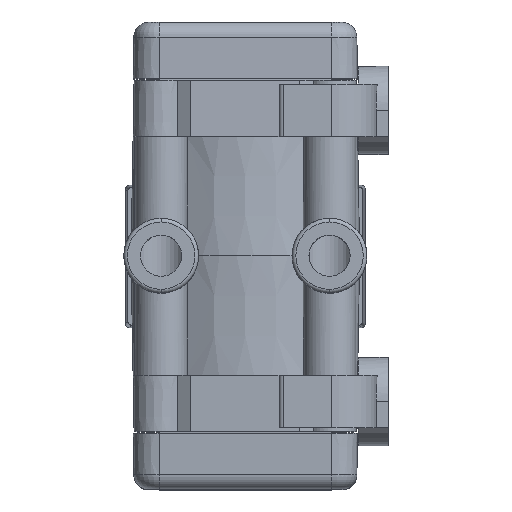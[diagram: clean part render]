
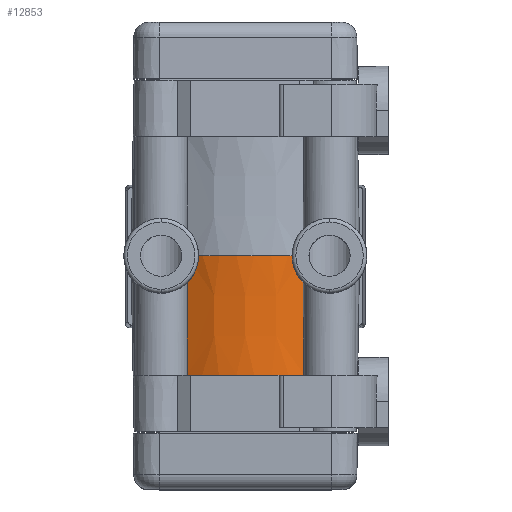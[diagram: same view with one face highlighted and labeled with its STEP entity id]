
A CAD part, top view. The second image highlights one B-rep face of the part: STEP entity #12853.
In plain terms, the highlighted conical face has half-angle 1 degrees and reference radius 15 mm.
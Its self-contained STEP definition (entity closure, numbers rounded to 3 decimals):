
#158 = CARTESIAN_POINT ( 'NONE',  ( -7.819, -5.786, 56.509 ) ) ;
#607 = CARTESIAN_POINT ( 'NONE',  ( -7.897, -15.95, 56.253 ) ) ;
#684 = B_SPLINE_CURVE_WITH_KNOTS ( 'NONE', 3,
 ( #6237, #4446, #21850, #18476, #7996, #20190, #9757 ),
 .UNSPECIFIED., .F., .F.,
 ( 4, 3, 4 ),
 ( 0., 0.007, 0.016 ),
 .UNSPECIFIED. ) ;
#1941 = CARTESIAN_POINT ( 'NONE',  ( -7.778, 0., 56.65 ) ) ;
#2001 = CIRCLE ( 'NONE', #21762, 15. ) ;
#2071 = EDGE_CURVE ( 'NONE', #20459, #7615, #684, .T. ) ;
#3236 = ORIENTED_EDGE ( 'NONE', *, *, #6248, .T. ) ;
#3496 = CARTESIAN_POINT ( 'NONE',  ( 7.778, 0., 56.65 ) ) ;
#4446 = CARTESIAN_POINT ( 'NONE',  ( 7.878, -13.527, 56.315 ) ) ;
#4624 = AXIS2_PLACEMENT_3D ( 'NONE', #6282, #9806, #6195 ) ;
#6099 = CARTESIAN_POINT ( 'NONE',  ( 0., -15.95, 43.5 ) ) ;
#6195 = DIRECTION ( 'NONE',  ( 1., 0., 0. ) ) ;
#6237 = CARTESIAN_POINT ( 'NONE',  ( 7.897, -15.95, 56.253 ) ) ;
#6248 = EDGE_CURVE ( 'NONE', #15462, #20459, #2001, .T. ) ;
#6282 = CARTESIAN_POINT ( 'NONE',  ( 0., -15.95, 43.5 ) ) ;
#7109 = CARTESIAN_POINT ( 'NONE',  ( -7.897, -15.95, 56.253 ) ) ;
#7170 = EDGE_LOOP ( 'NONE', ( #19062, #3236, #11707, #16756 ) ) ;
#7321 = VERTEX_POINT ( 'NONE', #16452 ) ;
#7506 = DIRECTION ( 'NONE',  ( 0., 1., 0. ) ) ;
#7615 = VERTEX_POINT ( 'NONE', #3496 ) ;
#7857 = DIRECTION ( 'NONE',  ( 1., 0., 0. ) ) ;
#7996 = CARTESIAN_POINT ( 'NONE',  ( 7.819, -5.786, 56.509 ) ) ;
#9757 = CARTESIAN_POINT ( 'NONE',  ( 7.778, 0., 56.65 ) ) ;
#9806 = DIRECTION ( 'NONE',  ( 0., 1., 0. ) ) ;
#10628 = CARTESIAN_POINT ( 'NONE',  ( -7.841, -8.679, 56.436 ) ) ;
#10817 = CONICAL_SURFACE ( 'NONE', #4624, 15., 0.017 ) ;
#10819 = B_SPLINE_CURVE_WITH_KNOTS ( 'NONE', 3,
 ( #7109, #17584, #21024, #10628, #158, #12392, #1941 ),
 .UNSPECIFIED., .F., .F.,
 ( 4, 3, 4 ),
 ( 0., 0.007, 0.016 ),
 .UNSPECIFIED. ) ;
#11324 = CARTESIAN_POINT ( 'NONE',  ( 7.897, -15.95, 56.253 ) ) ;
#11342 = FACE_OUTER_BOUND ( 'NONE', #7170, .T. ) ;
#11707 = ORIENTED_EDGE ( 'NONE', *, *, #2071, .T. ) ;
#12392 = CARTESIAN_POINT ( 'NONE',  ( -7.798, -2.893, 56.58 ) ) ;
#12853 = ADVANCED_FACE ( 'NONE', ( #11342 ), #10817, .T. ) ;
#14459 = EDGE_CURVE ( 'NONE', #7321, #7615, #21071, .T. ) ;
#14795 = EDGE_CURVE ( 'NONE', #15462, #7321, #10819, .T. ) ;
#15462 = VERTEX_POINT ( 'NONE', #607 ) ;
#16452 = CARTESIAN_POINT ( 'NONE',  ( -7.778, 0., 56.65 ) ) ;
#16756 = ORIENTED_EDGE ( 'NONE', *, *, #14459, .F. ) ;
#17584 = CARTESIAN_POINT ( 'NONE',  ( -7.878, -13.527, 56.315 ) ) ;
#17985 = CARTESIAN_POINT ( 'NONE',  ( 0., 0., 43.5 ) ) ;
#18334 = DIRECTION ( 'NONE',  ( 0., 1., 0. ) ) ;
#18476 = CARTESIAN_POINT ( 'NONE',  ( 7.841, -8.679, 56.436 ) ) ;
#19062 = ORIENTED_EDGE ( 'NONE', *, *, #14795, .F. ) ;
#19706 = DIRECTION ( 'NONE',  ( 1., 0., 0. ) ) ;
#20190 = CARTESIAN_POINT ( 'NONE',  ( 7.798, -2.893, 56.58 ) ) ;
#20459 = VERTEX_POINT ( 'NONE', #11324 ) ;
#21024 = CARTESIAN_POINT ( 'NONE',  ( -7.859, -11.103, 56.376 ) ) ;
#21071 = CIRCLE ( 'NONE', #22329, 15.278 ) ;
#21762 = AXIS2_PLACEMENT_3D ( 'NONE', #6099, #18334, #7857 ) ;
#21850 = CARTESIAN_POINT ( 'NONE',  ( 7.859, -11.103, 56.376 ) ) ;
#22329 = AXIS2_PLACEMENT_3D ( 'NONE', #17985, #7506, #19706 ) ;
